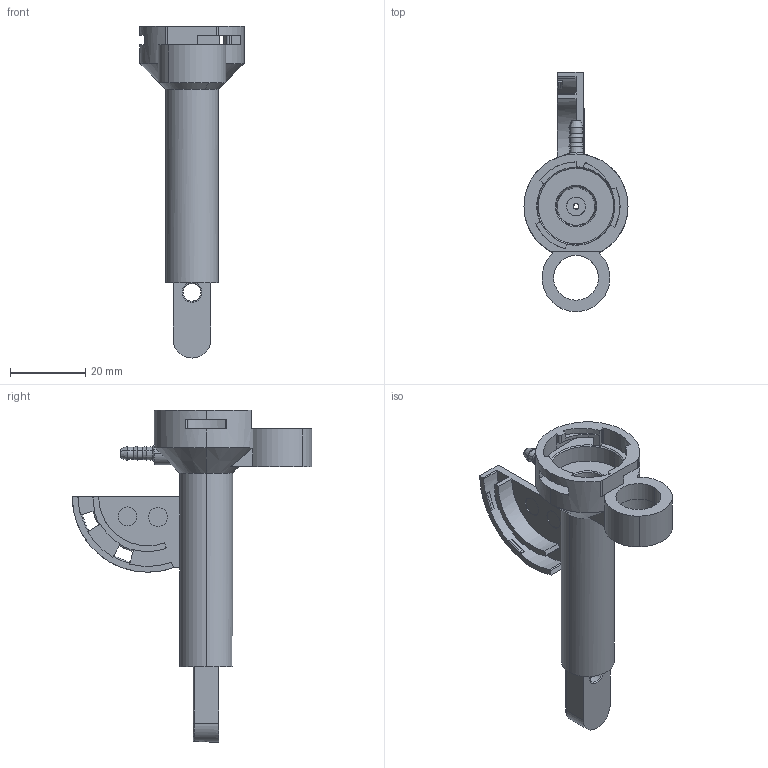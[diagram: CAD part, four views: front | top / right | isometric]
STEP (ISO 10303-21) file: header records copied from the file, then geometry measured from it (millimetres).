
FILE_DESCRIPTION(('CATIA V5 STEP Exchange'),'2;1');
FILE_NAME('C:\Users\Administrator\Desktop\补偿气缸.stp','2021-11-23T02:51:01+00:00',('none'),('none'),'CATIA Version 5 Release 20 GA (IN-10)','CATIA V5 STEP AP214','none');
FILE_SCHEMA(('AUTOMOTIVE_DESIGN { 1 0 10303 214 1 1 1 1 }'));
Length unit declared in the file: millimetre
Products named in the file (1): BPC0010084
Bounding box: 27.6 x 63.49 x 88 mm (x, y, z)
Volume: 11700.9 mm3; surface area: 10795.6 mm2
Topology: 1 solids, 1 shells, 1274 faces, 3726 edges, 2469 vertices
Faces by surface type: plane 1122, cylinder 81, cone 26, bspline 19, torus 16, extrusion 6, sphere 4
Entity records: 42204 total; most frequent: CARTESIAN_POINT 9085, ORIENTED_EDGE 7446, DIRECTION 5902, EDGE_CURVE 3723, VECTOR 3384, LINE 3378, VERTEX_POINT 2469, AXIS2_PLACEMENT_3D 1379
